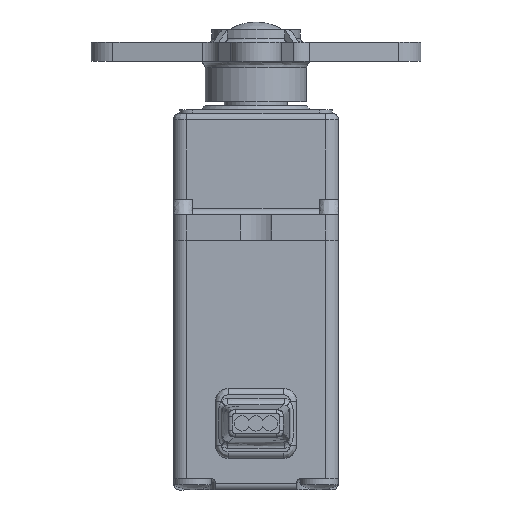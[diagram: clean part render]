
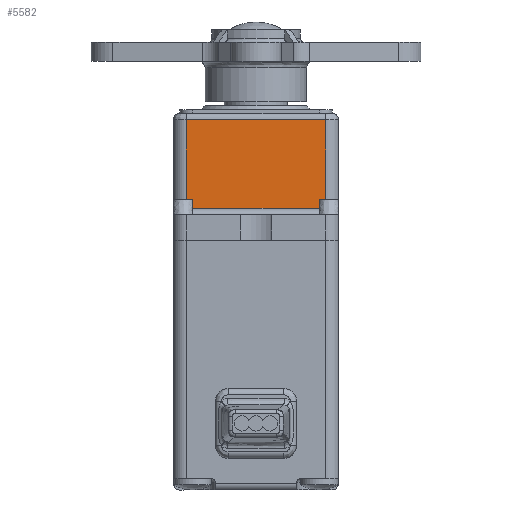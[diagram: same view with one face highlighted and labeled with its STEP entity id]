
A CAD part, front view. The second image highlights one B-rep face of the part: STEP entity #5582.
In plain terms, the highlighted planar face has unit normal (0, -1, 0).
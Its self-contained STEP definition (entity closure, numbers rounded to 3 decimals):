
#378 = CARTESIAN_POINT ( 'NONE',  ( -5., -7.5, -7.1 ) ) ;
#413 = ORIENTED_EDGE ( 'NONE', *, *, #2582, .T. ) ;
#1034 = LINE ( 'NONE', #8053, #11614 ) ;
#1263 = LINE ( 'NONE', #8718, #3361 ) ;
#1705 = VERTEX_POINT ( 'NONE', #378 ) ;
#1725 = EDGE_CURVE ( 'NONE', #9307, #3957, #4951, .T. ) ;
#1737 = CARTESIAN_POINT ( 'NONE',  ( 5.5, -7.5, -0.8 ) ) ;
#1925 = CARTESIAN_POINT ( 'NONE',  ( 5.5, -7.5, -7.1 ) ) ;
#1970 = LINE ( 'NONE', #7450, #4656 ) ;
#2118 = VERTEX_POINT ( 'NONE', #4229 ) ;
#2125 = DIRECTION ( 'NONE',  ( 0., 0., 1. ) ) ;
#2139 = DIRECTION ( 'NONE',  ( -1., 0., 0. ) ) ;
#2280 = CARTESIAN_POINT ( 'NONE',  ( 5., -7.5, -7.8 ) ) ;
#2582 = EDGE_CURVE ( 'NONE', #3957, #7798, #3030, .T. ) ;
#3030 = LINE ( 'NONE', #10370, #7384 ) ;
#3050 = VECTOR ( 'NONE', #5368, 1000. ) ;
#3102 = ORIENTED_EDGE ( 'NONE', *, *, #10885, .F. ) ;
#3196 = DIRECTION ( 'NONE',  ( 0., -1., 0. ) ) ;
#3361 = VECTOR ( 'NONE', #8783, 1000. ) ;
#3580 = VERTEX_POINT ( 'NONE', #3688 ) ;
#3688 = CARTESIAN_POINT ( 'NONE',  ( 5., -7.5, -7.8 ) ) ;
#3802 = EDGE_LOOP ( 'NONE', ( #8972, #9217, #413, #10887, #5430, #3102, #10719, #8910 ) ) ;
#3957 = VERTEX_POINT ( 'NONE', #1925 ) ;
#4046 = CARTESIAN_POINT ( 'NONE',  ( 5., -7.5, -7.1 ) ) ;
#4098 = EDGE_CURVE ( 'NONE', #7798, #5511, #5257, .T. ) ;
#4229 = CARTESIAN_POINT ( 'NONE',  ( -5., -7.5, -7.8 ) ) ;
#4494 = DIRECTION ( 'NONE',  ( 0., 0., -1. ) ) ;
#4656 = VECTOR ( 'NONE', #4811, 1000. ) ;
#4811 = DIRECTION ( 'NONE',  ( 0., 0., 1. ) ) ;
#4931 = LINE ( 'NONE', #2280, #9361 ) ;
#4951 = LINE ( 'NONE', #10548, #6257 ) ;
#5069 = DIRECTION ( 'NONE',  ( 0., 0., -1. ) ) ;
#5257 = LINE ( 'NONE', #10839, #3050 ) ;
#5368 = DIRECTION ( 'NONE',  ( -1., 0., 0. ) ) ;
#5384 = EDGE_CURVE ( 'NONE', #6109, #5511, #1970, .T. ) ;
#5430 = ORIENTED_EDGE ( 'NONE', *, *, #5384, .F. ) ;
#5511 = VERTEX_POINT ( 'NONE', #6144 ) ;
#5582 = ADVANCED_FACE ( 'NONE', ( #11445 ), #8605, .T. ) ;
#5814 = EDGE_CURVE ( 'NONE', #3580, #9307, #4931, .T. ) ;
#5876 = CARTESIAN_POINT ( 'NONE',  ( -5.5, -7.5, -7.1 ) ) ;
#5952 = DIRECTION ( 'NONE',  ( 0., 0., 1. ) ) ;
#6109 = VERTEX_POINT ( 'NONE', #5876 ) ;
#6144 = CARTESIAN_POINT ( 'NONE',  ( -5.5, -7.5, -0.8 ) ) ;
#6257 = VECTOR ( 'NONE', #10415, 1000. ) ;
#6724 = LINE ( 'NONE', #10196, #9564 ) ;
#7384 = VECTOR ( 'NONE', #2125, 1000. ) ;
#7450 = CARTESIAN_POINT ( 'NONE',  ( -5.5, -7.5, -7.1 ) ) ;
#7798 = VERTEX_POINT ( 'NONE', #1737 ) ;
#7887 = EDGE_CURVE ( 'NONE', #2118, #3580, #1263, .T. ) ;
#8053 = CARTESIAN_POINT ( 'NONE',  ( -5., -7.5, -7.8 ) ) ;
#8605 = PLANE ( 'NONE',  #8892 ) ;
#8718 = CARTESIAN_POINT ( 'NONE',  ( -5.5, -7.5, -7.8 ) ) ;
#8783 = DIRECTION ( 'NONE',  ( 1., 0., 0. ) ) ;
#8892 = AXIS2_PLACEMENT_3D ( 'NONE', #9636, #3196, #5069 ) ;
#8910 = ORIENTED_EDGE ( 'NONE', *, *, #7887, .T. ) ;
#8972 = ORIENTED_EDGE ( 'NONE', *, *, #5814, .T. ) ;
#9217 = ORIENTED_EDGE ( 'NONE', *, *, #1725, .T. ) ;
#9307 = VERTEX_POINT ( 'NONE', #4046 ) ;
#9361 = VECTOR ( 'NONE', #5952, 1000. ) ;
#9564 = VECTOR ( 'NONE', #2139, 1000. ) ;
#9636 = CARTESIAN_POINT ( 'NONE',  ( -5.5, -7.5, -7.8 ) ) ;
#9912 = EDGE_CURVE ( 'NONE', #1705, #2118, #1034, .T. ) ;
#10196 = CARTESIAN_POINT ( 'NONE',  ( -5., -7.5, -7.1 ) ) ;
#10370 = CARTESIAN_POINT ( 'NONE',  ( 5.5, -7.5, -7.8 ) ) ;
#10415 = DIRECTION ( 'NONE',  ( 1., 0., 0. ) ) ;
#10548 = CARTESIAN_POINT ( 'NONE',  ( -5.5, -7.5, -7.1 ) ) ;
#10719 = ORIENTED_EDGE ( 'NONE', *, *, #9912, .T. ) ;
#10839 = CARTESIAN_POINT ( 'NONE',  ( -5.5, -7.5, -0.8 ) ) ;
#10885 = EDGE_CURVE ( 'NONE', #1705, #6109, #6724, .T. ) ;
#10887 = ORIENTED_EDGE ( 'NONE', *, *, #4098, .T. ) ;
#11445 = FACE_OUTER_BOUND ( 'NONE', #3802, .T. ) ;
#11614 = VECTOR ( 'NONE', #4494, 1000. ) ;
